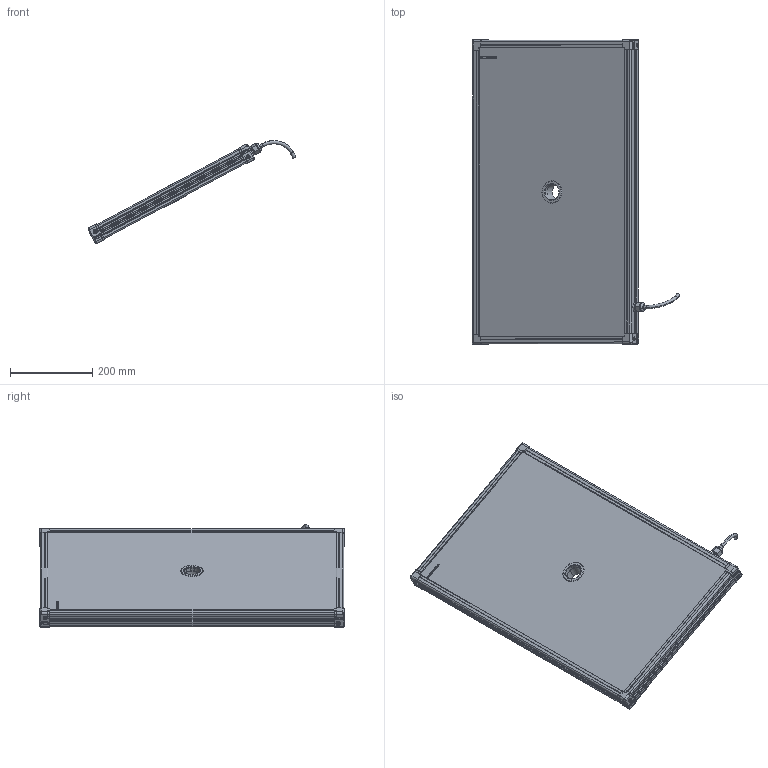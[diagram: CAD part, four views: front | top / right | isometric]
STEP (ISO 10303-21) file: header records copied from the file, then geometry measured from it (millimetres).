
FILE_DESCRIPTION (( 'STEP AP214' ), '1' );
FILE_NAME ('EFFI-FD-400-700-ZZZ-1M12P.STEP', '2021-06-22T08:36:00', ( '' ), ( '' ), 'SwSTEP 2.0', 'SolidWorks 2021', '' );
FILE_SCHEMA (( 'AUTOMOTIVE_DESIGN' ));
Length unit declared in the file: millimetre
Products named in the file (13): EFFI-FD-400-700-ZZZ-1M12P; profile X_PERCE; petite joue + vis; 001036; Pièce13^EFFI-FD-XXX-YYY-ZZZ (1 connecteur) M12POWER Ø39; petite joue; assemblage Ø39; 001035; 000590; 000629; profile Y_PERCE; M12 power_AVEC CABLE D8.1
Assembly tree (19 placements, depth 3):
  EFFI-FD-400-700-ZZZ-1M12P
    profile X_PERCE  x2
    profile Y_PERCE
    profile Y_PERCE
    Pièce13^EFFI-FD-XXX-YYY-ZZZ (1 connecteur) M12POWER Ø39
    petite joue + vis  x4
      petite joue
      000629
    M12 power_AVEC CABLE D8.1
    assemblage Ø39
      001036
      000590  x3
      001035
Bounding box: 503.1 x 739 x 249.72 mm (x, y, z)
Volume: 11195070.3 mm3; surface area: 1014828 mm2
Topology: 22 solids, 25 shells, 3896 faces, 10381 edges, 6830 vertices
Faces by surface type: plane 2438, cylinder 691, bspline 591, cone 154, torus 22
Entity records: 54477 total; most frequent: CARTESIAN_POINT 22298, ORIENTED_EDGE 6752, DIRECTION 5429, EDGE_CURVE 3378, VECTOR 2403, LINE 2403, VERTEX_POINT 2231, AXIS2_PLACEMENT_3D 1513
